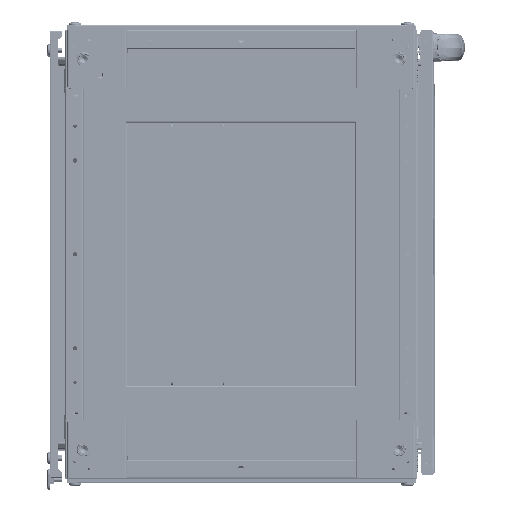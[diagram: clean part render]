
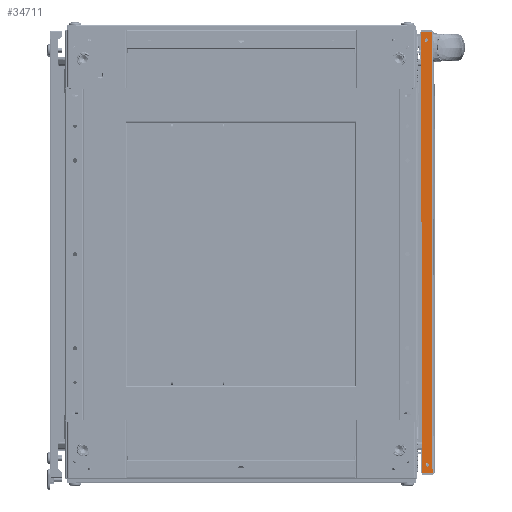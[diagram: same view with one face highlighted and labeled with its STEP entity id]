
A CAD part, front view. The second image highlights one B-rep face of the part: STEP entity #34711.
In plain terms, the highlighted planar face has unit normal (0, -1, 0) as drawn and (-1, 0, 0) by its records, which use the part's own axes.
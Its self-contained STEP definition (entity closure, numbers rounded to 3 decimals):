
#2644 = DIRECTION ( 'NONE',  ( 0., 0., -1. ) ) ;
#18654 = VECTOR ( 'NONE', #558832, 1000. ) ;
#34711 = ADVANCED_FACE ( 'NONE', ( #319517, #48128, #265954 ), #226420, .F. ) ;
#38355 = CARTESIAN_POINT ( 'NONE',  ( -2.01, 16., 0. ) ) ;
#48128 = FACE_BOUND ( 'NONE', #519131, .T. ) ;
#50369 = DIRECTION ( 'NONE',  ( 1., 0., 0. ) ) ;
#53553 = EDGE_CURVE ( 'NONE', #92546, #641811, #356683, .T. ) ;
#64073 = AXIS2_PLACEMENT_3D ( 'NONE', #418351, #50369, #579178 ) ;
#77402 = CARTESIAN_POINT ( 'NONE',  ( -2.01, 2.01, 0. ) ) ;
#80257 = VERTEX_POINT ( 'NONE', #499979 ) ;
#90932 = VERTEX_POINT ( 'NONE', #290964 ) ;
#91903 = DIRECTION ( 'NONE',  ( 0., 1., 0. ) ) ;
#92517 = EDGE_LOOP ( 'NONE', ( #515508, #625241, #651007, #661756 ) ) ;
#92546 = VERTEX_POINT ( 'NONE', #404047 ) ;
#98670 = VERTEX_POINT ( 'NONE', #384172 ) ;
#115879 = CARTESIAN_POINT ( 'NONE',  ( -2.01, 9., -11. ) ) ;
#129595 = EDGE_CURVE ( 'NONE', #137965, #80257, #381113, .T. ) ;
#137965 = VERTEX_POINT ( 'NONE', #77402 ) ;
#152929 = DIRECTION ( 'NONE',  ( 0., 0., -1. ) ) ;
#158433 = AXIS2_PLACEMENT_3D ( 'NONE', #680805, #187956, #459374 ) ;
#174905 = VERTEX_POINT ( 'NONE', #569836 ) ;
#180869 = AXIS2_PLACEMENT_3D ( 'NONE', #344043, #186898, #615589 ) ;
#183510 = AXIS2_PLACEMENT_3D ( 'NONE', #410236, #202913, #152929 ) ;
#186898 = DIRECTION ( 'NONE',  ( 1., 0., 0. ) ) ;
#187956 = DIRECTION ( 'NONE',  ( 1., 0., 0. ) ) ;
#202913 = DIRECTION ( 'NONE',  ( 1., 0., 0. ) ) ;
#226420 = PLANE ( 'NONE',  #180869 ) ;
#229667 = EDGE_CURVE ( 'NONE', #174905, #80257, #448116, .T. ) ;
#232502 = ORIENTED_EDGE ( 'NONE', *, *, #305642, .T. ) ;
#234005 = EDGE_CURVE ( 'NONE', #137965, #90932, #363235, .T. ) ;
#240619 = CIRCLE ( 'NONE', #183510, 2.3 ) ;
#265954 = FACE_OUTER_BOUND ( 'NONE', #92517, .T. ) ;
#280132 = DIRECTION ( 'NONE',  ( 1., 0., 0. ) ) ;
#288388 = AXIS2_PLACEMENT_3D ( 'NONE', #115879, #280132, #454883 ) ;
#290964 = CARTESIAN_POINT ( 'NONE',  ( -2.01, 16., 0. ) ) ;
#302018 = CARTESIAN_POINT ( 'NONE',  ( -2.01, 9., -13.3 ) ) ;
#305642 = EDGE_CURVE ( 'NONE', #641811, #92546, #240619, .T. ) ;
#313911 = EDGE_CURVE ( 'NONE', #90932, #174905, #425618, .T. ) ;
#318338 = VECTOR ( 'NONE', #91903, 1000. ) ;
#319517 = FACE_BOUND ( 'NONE', #571958, .T. ) ;
#344043 = CARTESIAN_POINT ( 'NONE',  ( -2.01, 16., -588. ) ) ;
#352577 = CIRCLE ( 'NONE', #158433, 2.3 ) ;
#356683 = CIRCLE ( 'NONE', #288388, 2.3 ) ;
#363235 = LINE ( 'NONE', #38355, #318338 ) ;
#368464 = EDGE_CURVE ( 'NONE', #98670, #665970, #486152, .T. ) ;
#381113 = LINE ( 'NONE', #599052, #415668 ) ;
#384172 = CARTESIAN_POINT ( 'NONE',  ( -2.01, 9., -579.3 ) ) ;
#404047 = CARTESIAN_POINT ( 'NONE',  ( -2.01, 9., -8.7 ) ) ;
#410236 = CARTESIAN_POINT ( 'NONE',  ( -2.01, 9., -11. ) ) ;
#413153 = EDGE_CURVE ( 'NONE', #665970, #98670, #352577, .T. ) ;
#415668 = VECTOR ( 'NONE', #2644, 1000. ) ;
#418351 = CARTESIAN_POINT ( 'NONE',  ( -2.01, 9., -577. ) ) ;
#425618 = LINE ( 'NONE', #450251, #607738 ) ;
#444733 = ORIENTED_EDGE ( 'NONE', *, *, #413153, .T. ) ;
#448116 = LINE ( 'NONE', #666021, #18654 ) ;
#450251 = CARTESIAN_POINT ( 'NONE',  ( -2.01, 16., -588. ) ) ;
#454883 = DIRECTION ( 'NONE',  ( 0., 0., -1. ) ) ;
#459374 = DIRECTION ( 'NONE',  ( 0., 0., -1. ) ) ;
#482071 = ORIENTED_EDGE ( 'NONE', *, *, #53553, .T. ) ;
#486152 = CIRCLE ( 'NONE', #64073, 2.3 ) ;
#499979 = CARTESIAN_POINT ( 'NONE',  ( -2.01, 2.01, -588. ) ) ;
#503045 = CARTESIAN_POINT ( 'NONE',  ( -2.01, 9., -574.7 ) ) ;
#515508 = ORIENTED_EDGE ( 'NONE', *, *, #129595, .F. ) ;
#519131 = EDGE_LOOP ( 'NONE', ( #232502, #482071 ) ) ;
#536617 = ORIENTED_EDGE ( 'NONE', *, *, #368464, .T. ) ;
#558832 = DIRECTION ( 'NONE',  ( 0., -1., 0. ) ) ;
#560956 = DIRECTION ( 'NONE',  ( 0., 0., -1. ) ) ;
#569836 = CARTESIAN_POINT ( 'NONE',  ( -2.01, 16., -588. ) ) ;
#571958 = EDGE_LOOP ( 'NONE', ( #536617, #444733 ) ) ;
#579178 = DIRECTION ( 'NONE',  ( 0., 0., -1. ) ) ;
#599052 = CARTESIAN_POINT ( 'NONE',  ( -2.01, 2.01, -588. ) ) ;
#607738 = VECTOR ( 'NONE', #560956, 1000. ) ;
#615589 = DIRECTION ( 'NONE',  ( 0., 1., 0. ) ) ;
#625241 = ORIENTED_EDGE ( 'NONE', *, *, #234005, .T. ) ;
#641811 = VERTEX_POINT ( 'NONE', #302018 ) ;
#651007 = ORIENTED_EDGE ( 'NONE', *, *, #313911, .T. ) ;
#661756 = ORIENTED_EDGE ( 'NONE', *, *, #229667, .T. ) ;
#665970 = VERTEX_POINT ( 'NONE', #503045 ) ;
#666021 = CARTESIAN_POINT ( 'NONE',  ( -2.01, 16., -588. ) ) ;
#680805 = CARTESIAN_POINT ( 'NONE',  ( -2.01, 9., -577. ) ) ;
